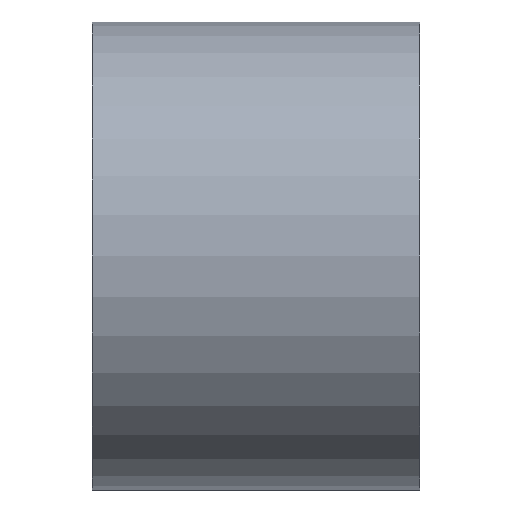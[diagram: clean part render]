
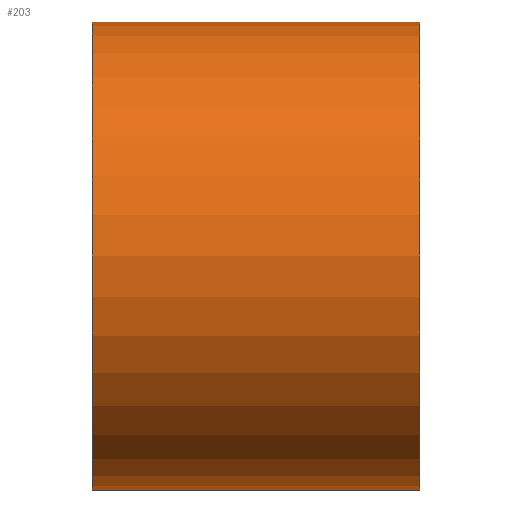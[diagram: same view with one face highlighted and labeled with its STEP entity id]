
A CAD part, left-side view. The second image highlights one B-rep face of the part: STEP entity #203.
In plain terms, the highlighted cylindrical face has radius 20 mm (diameter 40 mm), a partial arc.
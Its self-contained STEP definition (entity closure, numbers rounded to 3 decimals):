
#3 = EDGE_CURVE ( 'NONE', #30, #279, #778, .T. ) ;
#19 = CARTESIAN_POINT ( 'NONE',  ( 0., 0., 0. ) ) ;
#30 = VERTEX_POINT ( 'NONE', #524 ) ;
#54 = CIRCLE ( 'NONE', #847, 20. ) ;
#70 = AXIS2_PLACEMENT_3D ( 'NONE', #19, #90, #385 ) ;
#90 = DIRECTION ( 'NONE',  ( 0., 1., 0. ) ) ;
#91 = EDGE_CURVE ( 'NONE', #279, #797, #841, .T. ) ;
#129 = CARTESIAN_POINT ( 'NONE',  ( 0., 14., -20. ) ) ;
#174 = FACE_OUTER_BOUND ( 'NONE', #620, .T. ) ;
#188 = CARTESIAN_POINT ( 'NONE',  ( 0., -14., 20. ) ) ;
#193 = CARTESIAN_POINT ( 'NONE',  ( 0., -14., 0. ) ) ;
#203 = ADVANCED_FACE ( 'NONE', ( #174 ), #401, .T. ) ;
#279 = VERTEX_POINT ( 'NONE', #188 ) ;
#284 = LINE ( 'NONE', #289, #294 ) ;
#289 = CARTESIAN_POINT ( 'NONE',  ( 0., 0., -20. ) ) ;
#294 = VECTOR ( 'NONE', #958, 1000. ) ;
#300 = CARTESIAN_POINT ( 'NONE',  ( 0., 14., 0. ) ) ;
#310 = DIRECTION ( 'NONE',  ( 0., 1., 0. ) ) ;
#323 = DIRECTION ( 'NONE',  ( 0., 0., 1. ) ) ;
#379 = AXIS2_PLACEMENT_3D ( 'NONE', #193, #487, #409 ) ;
#385 = DIRECTION ( 'NONE',  ( 0., 0., 1. ) ) ;
#401 = CYLINDRICAL_SURFACE ( 'NONE', #70, 20. ) ;
#409 = DIRECTION ( 'NONE',  ( 0., 0., 1. ) ) ;
#429 = VECTOR ( 'NONE', #310, 1000. ) ;
#487 = DIRECTION ( 'NONE',  ( 0., 1., 0. ) ) ;
#524 = CARTESIAN_POINT ( 'NONE',  ( 0., -14., -20. ) ) ;
#531 = CARTESIAN_POINT ( 'NONE',  ( 0., 14., 20. ) ) ;
#602 = VERTEX_POINT ( 'NONE', #129 ) ;
#620 = EDGE_LOOP ( 'NONE', ( #638, #677, #872, #940 ) ) ;
#638 = ORIENTED_EDGE ( 'NONE', *, *, #742, .F. ) ;
#677 = ORIENTED_EDGE ( 'NONE', *, *, #3, .T. ) ;
#742 = EDGE_CURVE ( 'NONE', #30, #602, #284, .T. ) ;
#752 = EDGE_CURVE ( 'NONE', #602, #797, #54, .T. ) ;
#762 = CARTESIAN_POINT ( 'NONE',  ( 0., 0., 20. ) ) ;
#778 = CIRCLE ( 'NONE', #379, 20. ) ;
#797 = VERTEX_POINT ( 'NONE', #531 ) ;
#841 = LINE ( 'NONE', #762, #429 ) ;
#847 = AXIS2_PLACEMENT_3D ( 'NONE', #300, #901, #323 ) ;
#872 = ORIENTED_EDGE ( 'NONE', *, *, #91, .T. ) ;
#901 = DIRECTION ( 'NONE',  ( 0., 1., 0. ) ) ;
#940 = ORIENTED_EDGE ( 'NONE', *, *, #752, .F. ) ;
#958 = DIRECTION ( 'NONE',  ( 0., 1., 0. ) ) ;
